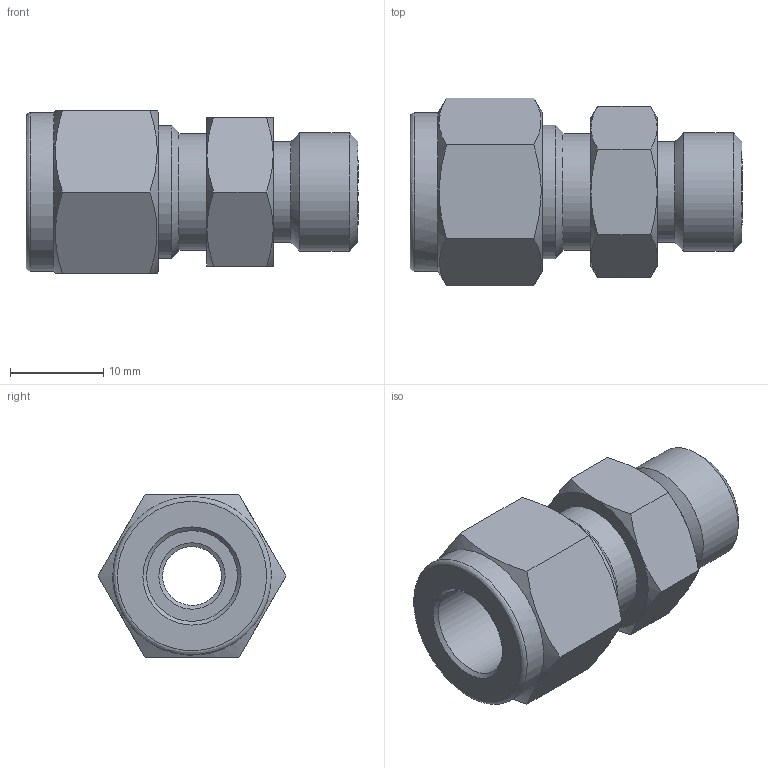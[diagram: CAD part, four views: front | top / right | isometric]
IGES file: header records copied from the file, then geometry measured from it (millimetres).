
Global section: file name: SSMC-6-5U; native system: Autodesk Inventor 2016; preprocessor: unknown; author: DESIGNPC2; date: 20160125.095422; units: millimetre
Bounding box: 35.61 x 20.16 x 17.46 mm (x, y, z)
Volume: 5048.4 mm3; surface area: 3271.4 mm2
Topology: 1 solids, 1 shells, 48 faces, 122 edges, 81 vertices
Faces by surface type: bspline 48
